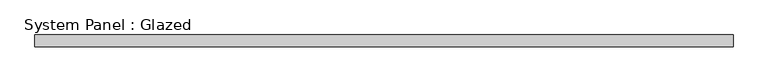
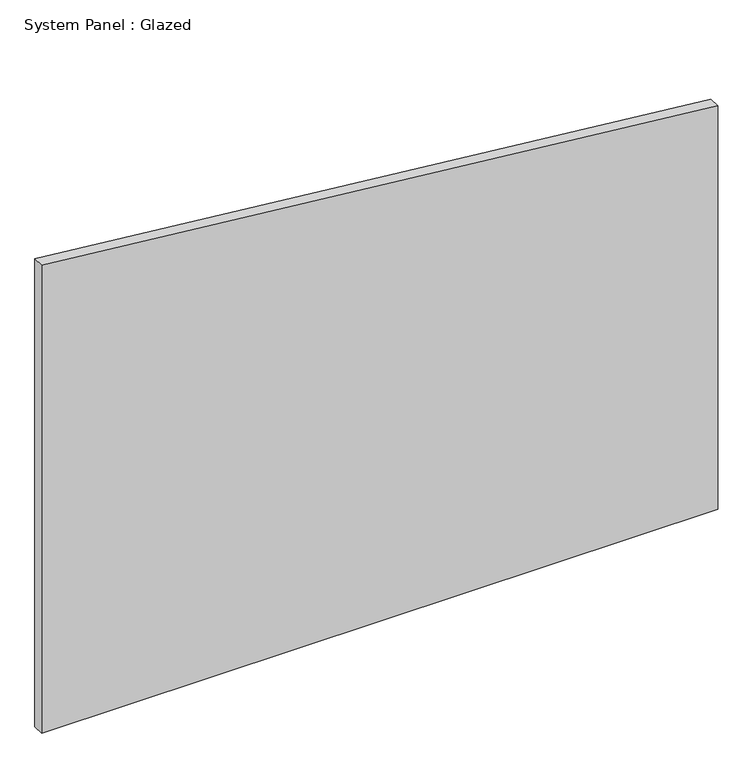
"""IFC4 building model written with IfcOpenShell, lengths in millimetres: plate geometry, System Panel : Glazed."""

from ifc_helpers import new_model, si_unit, frame, origin, place, context, project, spatial, polyline, outline, extrude, source, transform, mapped, element, save


def system_panel_glazed_eee41cb1(model_context):
    return source(origin(), model_context, "Body", "SweptSolid", [
        extrude(outline(polyline([(0.0, -735.8695652), (0.0, 735.8695652), (928.4395354, 735.8695652), (1076.4225141, -735.8695652), (0.0, -735.8695652)])), frame((0.0, 24.5, 0.0), z_axis=(0.0, 1.0, 0.0), x_axis=(0.0, 0.0, 1.0)), (0.0, 0.0, 1.0), 25.0),
    ])


if __name__ == "__main__":
    model = new_model("IFC4")
    model_context = context("Model", 3, world=origin())
    ifc_project = project(units=[si_unit("LENGTHUNIT", "METRE", prefix="MILLI")], contexts=[model_context])
    site = spatial("IfcSite", under=ifc_project)
    building = spatial("IfcBuilding", under=site)
    placement = place(None, origin())
    system_panel_glazed_shape = system_panel_glazed_eee41cb1(model_context)
    element("IfcPlate", 1, ObjectType="System Panel : Glazed", at=placement, inside=building, context=model_context, shape_type="MappedRepresentation", body=[
        mapped(system_panel_glazed_shape, transform((0.0, 0.0, 0.0), x_axis=(1.0, 0.0, 0.0), y_axis=(0.0, 1.0, 0.0), z_axis=(0.0, 0.0, 1.0))),
    ])
    save(model, "model.ifc")
